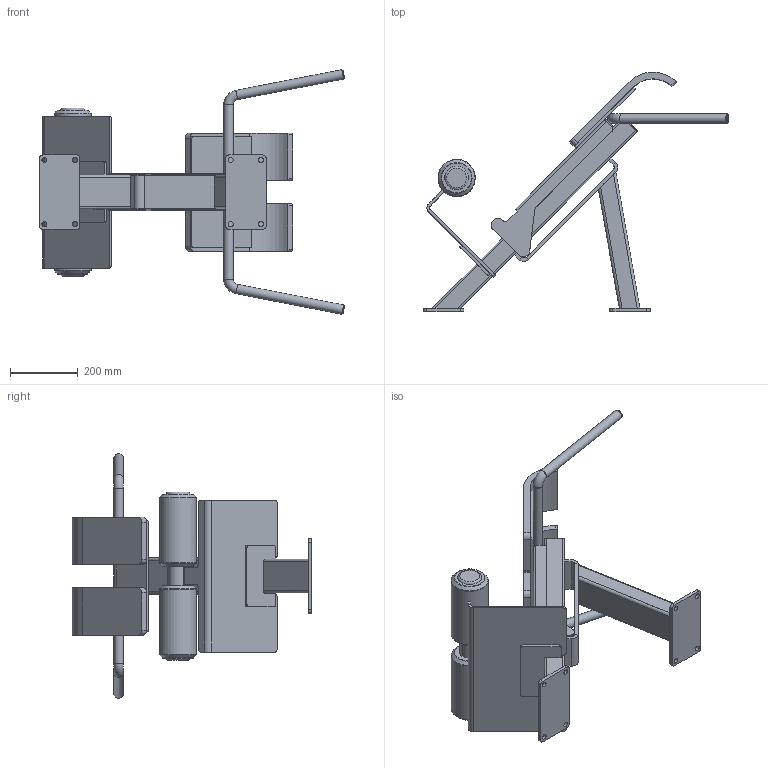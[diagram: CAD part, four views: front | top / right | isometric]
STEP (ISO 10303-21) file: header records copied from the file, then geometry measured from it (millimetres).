
FILE_DESCRIPTION(/* description */ (''),/* implementation_level */ '2;1');
FILE_NAME(/* name */ 'OG21_3D_dwg_Low.step',/* time_stamp */ '2025-11-11T15:58:33+02:00',/* author */ (''),/* organization */ (''),/* preprocessor_version */ 'ST-DEVELOPER v20.1',/* originating_system */ 'Autodesk Translation Framework v14.21.0.0',/* authorisation */ '');
FILE_SCHEMA (('AUTOMOTIVE_DESIGN { 1 0 10303 214 3 1 1 }'));
Length unit declared in the file: millimetre
Products named in the file (1): OG21_3D_dwg_Low
Bounding box: 903.99 x 709.26 x 724.14 mm (x, y, z)
Volume: 10311869.7 mm3; surface area: 2558176 mm2
Topology: 34 solids, 34 shells, 398 faces, 899 edges, 574 vertices
Faces by surface type: plane 218, cylinder 134, cone 28, torus 14, bspline 4
Full cylindrical faces by diameter (mm): 4.917 x2, 6 x1, 7 x2, 10.2 x3, 15 x8, 18 x2, 22 x3, 24 x2, 28 x3, 53.9 x1, 57 x2, 60 x2, 60.3 x1, 110 x2
Entity records: 11533 total; most frequent: CARTESIAN_POINT 2418, DIRECTION 1941, ORIENTED_EDGE 1798, EDGE_CURVE 899, AXIS2_PLACEMENT_3D 717, VERTEX_POINT 574, LINE 507, VECTOR 507
